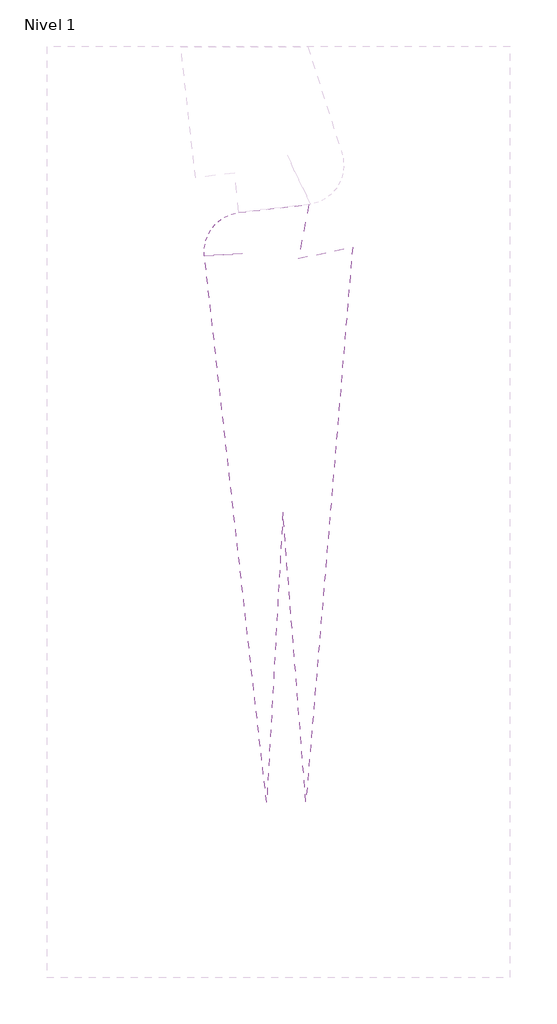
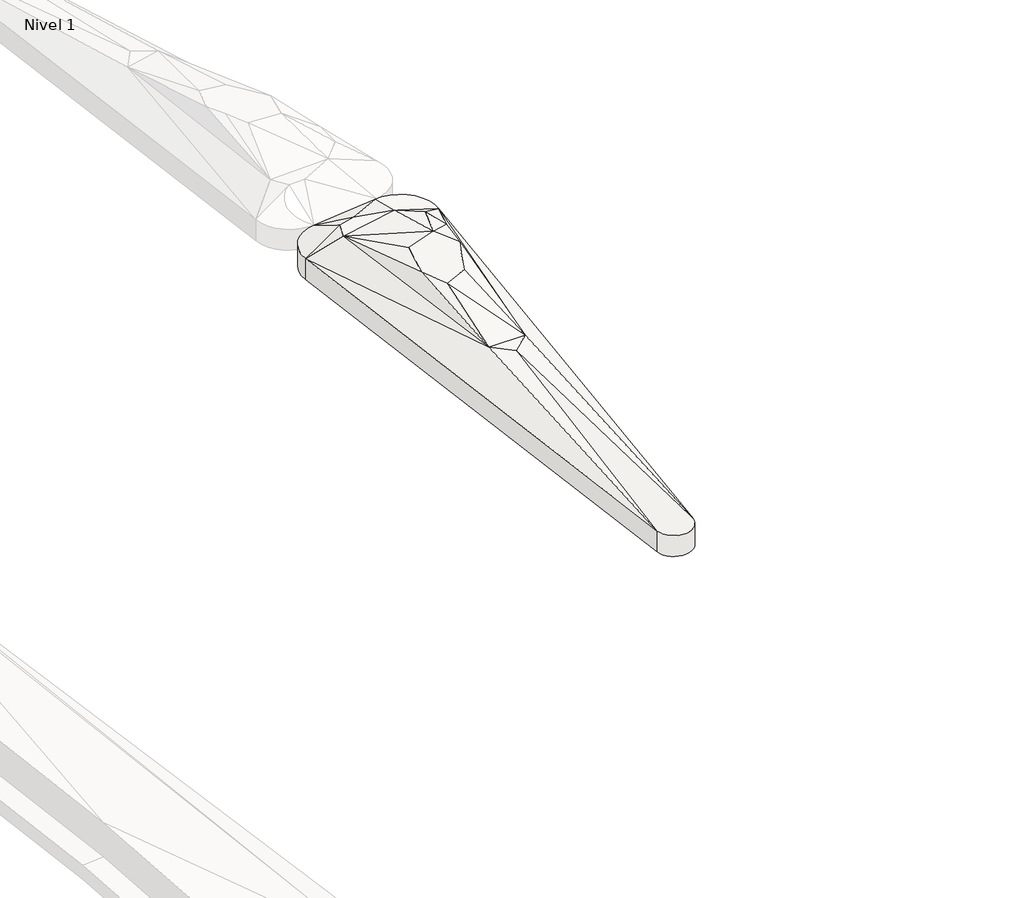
# One storey, part 13 of 45: 1 slab.
"""IFC4 building model written with IfcOpenShell, lengths in millimetres."""

from ifc_helpers import new_model, si_unit, frame, origin, place, context, project, spatial, circle_curve, element, save
from ifc_brep_helpers import plane_surface, cylinder_surface, spline_surface, advanced_brep

model = new_model("IFC4")

# Units and contexts
model_context = context("Model", 3, world=origin())
ifc_project = project(units=[si_unit("LENGTHUNIT", "METRE", prefix="MILLI")], contexts=[model_context])

# Site, building, storey
site = spatial("IfcSite", under=ifc_project)
building = spatial("IfcBuilding", under=site)
storey = spatial("IfcBuildingStorey", under=building, Name="Nivel 1", Elevation=0.0)

# Slab
placement = place(None, origin())
element("IfcSlab", 1, ObjectType="Lippia", at=placement, inside=storey, context=model_context, shape_type="AdvancedBrep", body=[
    advanced_brep(
    [(-294648.0976015, -188719.0515162, 4450.0), (-294648.0976015, -188719.0515162, 4750.0), (-293760.4987211, -188617.9740677, 4750.0), (-293760.4987211, -188617.9740677, 4450.0), (-293205.826344, -189158.326459, 4750.0), (-293205.826344, -189158.326459, 4450.0), (-293798.4692068, -196195.187078, 4750.0), (-293798.4692068, -196195.187078, 4450.0), (-294296.1264659, -196201.2323873, 4450.0), (-294296.1264659, -196201.2323873, 4750.0), (-295085.3083572, -189270.1599316, 4750.0), (-295085.3083572, -189270.1599316, 4450.0), (-293892.1946553, -189301.5059719, 5050.0), (-294379.3508531, -189186.3720456, 5050.0), (-293892.1946553, -189301.5059719, 4750.0), (-294379.3508531, -189186.3720456, 4750.0), (-293936.6609808, -191023.1981282, 5250.0), (-293815.3539824, -190760.0741234, 5250.0), (-293694.046984, -190496.9501187, 5250.0), (-293851.3767113, -190152.1982755, 5250.0), (-294274.7645516, -190302.4276638, 5250.0), (-294341.479566, -190583.4458408, 5250.0), (-294396.5779658, -190815.5323064, 5250.0), (-294244.2769112, -191157.2652186, 5250.0), (-293936.6609808, -191023.1981282, 4950.0), (-294244.2769112, -191157.2652186, 4950.0), (-294396.5779658, -190815.5323064, 4950.0), (-294341.479566, -190583.4458408, 4950.0), (-294274.7645516, -190302.4276638, 4950.0), (-293851.3767113, -190152.1982755, 4950.0), (-293694.046984, -190496.9501187, 4950.0), (-293815.3539824, -190760.0741234, 4950.0), (-294684.8381024, -189461.2542994, 5050.0), (-294604.0632734, -189243.8314745, 5050.0), (-294684.8381024, -189461.2542994, 4750.0), (-294604.0632734, -189243.8314745, 4750.0), (-293591.1435532, -189505.1379682, 5050.0), (-293591.1435532, -189505.1379682, 4750.0), (-293507.5271737, -189858.8413143, 5050.0), (-293840.907107, -192306.6585026, 5050.0), (-293840.907107, -192306.6585026, 4750.0), (-293507.5271737, -189858.8413143, 4750.0), (-294336.7690297, -192303.2910385, 5050.0), (-294336.7690297, -192303.2910385, 4750.0), (-294090.3074141, -192522.9150724, 5050.0), (-294090.3074141, -192522.9150724, 4750.0)],
    [
        (0, 1),
        (1, 2),
        (2, 3),
        (3, 0),
        (2, 4, circle_curve(frame((-293703.9252738, -189114.7666684, 4750.0), z_axis=(0.0, 0.0, -1.0), x_axis=(0.9796556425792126, 0.20068587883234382, 0.0)), 499.9999992)),
        (4, 5),
        (5, 3, circle_curve(frame((-293703.9252738, -189114.7666684, 4450.0), z_axis=(0.0, 0.0, 1.0), x_axis=(0.9796556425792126, 0.20068587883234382, 0.0)), 499.9999992)),
        (4, 6),
        (6, 7),
        (7, 5),
        (8, 9),
        (9, 10),
        (10, 11),
        (11, 8),
        (10, 1, circle_curve(frame((-294588.3090091, -189215.4639701, 4750.0), z_axis=(0.0, 0.0, -1.0), x_axis=(0.9796556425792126, 0.20068587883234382, 0.0)), 500.0000001)),
        (0, 11, circle_curve(frame((-294588.3090091, -189215.4639701, 4450.0), z_axis=(0.0, 0.0, 1.0), x_axis=(0.9796556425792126, 0.20068587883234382, 0.0)), 500.0000001)),
        (2, 12),
        (12, 4),
        (1, 13),
        (13, 2),
        (5, 14),
        (14, 3),
        (3, 15),
        (15, 0),
        (16, 17),
        (17, 18),
        (18, 19),
        (19, 20),
        (20, 21),
        (21, 22),
        (22, 23),
        (23, 16),
        (24, 25),
        (25, 26),
        (26, 27),
        (27, 28),
        (28, 29),
        (29, 30),
        (30, 31),
        (31, 24),
        (20, 32),
        (32, 22),
        (10, 32),
        (32, 33),
        (33, 10),
        (19, 32),
        (26, 34),
        (34, 28),
        (11, 35),
        (35, 34),
        (34, 11),
        (34, 29),
        (32, 12),
        (12, 13),
        (13, 33),
        (19, 12),
        (12, 36),
        (36, 4),
        (35, 15),
        (15, 14),
        (14, 34),
        (14, 29),
        (5, 37),
        (37, 14),
        (4, 38),
        (38, 39),
        (39, 4),
        (19, 38),
        (38, 36),
        (36, 19),
        (5, 40),
        (40, 41),
        (41, 5),
        (29, 37),
        (37, 41),
        (41, 29),
        (22, 42),
        (42, 23),
        (23, 39),
        (39, 16),
        (39, 18),
        (25, 43),
        (43, 26),
        (24, 40),
        (40, 25),
        (30, 40),
        (42, 39),
        (40, 43),
        (1, 33),
        (35, 0),
        (10, 42),
        (42, 32),
        (42, 44),
        (44, 39),
        (18, 38),
        (34, 43),
        (43, 11),
        (40, 45),
        (45, 43),
        (41, 30),
        (6, 9, circle_curve(frame((-294047.5916062, -196174.206044, 4750.0), z_axis=(0.0, 0.0, -1.0), x_axis=(0.9796556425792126, 0.20068587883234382, 0.0)), 249.9999994)),
        (8, 7, circle_curve(frame((-294047.5916062, -196174.206044, 4450.0), z_axis=(0.0, 0.0, 1.0), x_axis=(0.9796556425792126, 0.20068587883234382, 0.0)), 249.9999994)),
        (9, 42),
        (9, 44),
        (6, 44),
        (6, 39),
        (43, 8),
        (45, 8),
        (45, 7),
        (40, 7),
    ],
    [
        plane_surface(frame((-294648.0976015, -188719.0515162, 4450.0), z_axis=(-0.11314611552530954, 0.9935783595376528, 0.0), x_axis=(0.0, 0.0, 1.0))),
        cylinder_surface(frame((-293703.9252738, -189114.7666684, 4750.0), z_axis=(0.0, 0.0, -1.0), x_axis=(0.9796556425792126, 0.20068587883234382, 0.0)), 499.9999992),
        plane_surface(frame((-293205.826344, -189158.326459, 4450.0), z_axis=(0.996472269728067, -0.0839226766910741, 0.0), x_axis=(0.0, 0.0, 1.0))),
        plane_surface(frame((-294296.1264659, -196201.2323873, 4450.0), z_axis=(-0.9935801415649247, -0.11313046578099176, 0.0), x_axis=(0.0, 0.0, 1.0))),
        cylinder_surface(frame((-294588.3090091, -189215.4639701, 4750.0), z_axis=(0.0, 0.0, -1.0), x_axis=(0.9796556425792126, 0.20068587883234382, 0.0)), 500.0000001),
        spline_surface(2, 1, [[(-293205.826344, -189158.326459, 4750.0), (-293892.1946553, -189301.5059719, 5050.0)], [(-293185.1671726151, -188922.0922848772, 4750.0), (-293892.1946553, -189301.5059719, 5050.0)], [(-293355.02625374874, -188756.6193899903, 4750.0), (-293892.1946553, -189301.5059719, 5050.0)], [(-293524.8853348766, -188591.14649510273, 4750.0), (-293892.1946553, -189301.5059719, 5050.0)], [(-293760.4983314, -188617.9774894, 4750.0), (-293892.1946553, -189301.5059719, 5050.0)]], [3, 2, 3], [2, 2], [0.0, 1.0, 2.0], [0.0, 1.0], weights=[[1.0, 1.0], [0.9035324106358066, 0.9035324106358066], [1.0, 1.0], [0.9035324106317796, 0.9035324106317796], [1.0, 1.0]]),
        plane_surface(frame((-294262.6490586, -188841.1325432, 4850.0), z_axis=(-0.05866746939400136, 0.5151809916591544, 0.8550711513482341), x_axis=(-0.9935783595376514, -0.11314611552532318, 0.0))),
        spline_surface(1, 2, [[(-293205.826344, -189158.326459, 4450.0), (-293185.1671726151, -188922.0922848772, 4450.0), (-293355.02625374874, -188756.6193899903, 4450.0), (-293524.8853348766, -188591.14649510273, 4450.0), (-293760.4983314, -188617.9774894, 4450.0)], [(-293892.1946553, -189301.5059719, 4750.0), (-293892.1946553, -189301.5059719, 4750.0), (-293892.1946553, -189301.5059719, 4750.0), (-293892.1946553, -189301.5059719, 4750.0), (-293892.1946553, -189301.5059719, 4750.0)]], [2, 2], [3, 2, 3], [0.0, 1.0], [0.0, 1.0, 2.0], weights=[[1.0, 0.9035324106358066, 1.0, 0.9035324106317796, 1.0], [1.0, 0.9035324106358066, 1.0, 0.9035324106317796, 1.0]]),
        plane_surface(frame((-294262.6490586, -188841.1325432, 4550.0), z_axis=(0.05866746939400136, -0.5151809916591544, -0.8550711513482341), x_axis=(-0.9935783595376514, -0.11314611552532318, 0.0))),
        plane_surface(frame((-294066.2840175, -190657.9286185, 5250.0), z_axis=(0.0, 0.0, 1.0), x_axis=(0.41867445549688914, 0.9081363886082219, 0.0))),
        plane_surface(frame((-294066.2840175, -190657.9286185, 4950.0), z_axis=(0.0, 0.0, -1.0), x_axis=(0.41867445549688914, 0.9081363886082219, 0.0))),
        plane_surface(frame((-294452.0602066, -190193.0714232, 5183.3333333), z_axis=(-0.31080628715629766, 0.0737868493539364, 0.9476048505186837), x_axis=(0.23098458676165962, 0.9729574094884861, 0.0))),
        plane_surface(frame((-294791.4032443, -189325.0819018, 4950.0), z_axis=(-0.526477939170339, 0.1955920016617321, 0.8273842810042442), x_axis=(0.7476699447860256, -0.35676935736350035, 0.5600939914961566))),
        plane_surface(frame((-294270.3264551, -189971.9600796, 5183.3333333), z_axis=(-0.07031548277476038, 0.19816841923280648, 0.9776425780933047), x_axis=(-0.7570475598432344, 0.6275964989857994, -0.18166349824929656))),
        plane_surface(frame((-294452.0602066, -190193.0714232, 4883.3333333), z_axis=(0.31080628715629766, -0.0737868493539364, -0.9476048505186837), x_axis=(0.23098458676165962, 0.9729574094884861, 0.0))),
        plane_surface(frame((-294791.4032443, -189325.0819018, 4650.0), z_axis=(0.526477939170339, -0.1955920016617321, -0.8273842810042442), x_axis=(0.7476699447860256, -0.35676935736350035, 0.5600939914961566))),
        plane_surface(frame((-294270.3264551, -189971.9600796, 4883.3333333), z_axis=(0.07031548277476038, -0.19816841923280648, -0.9776425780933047), x_axis=(-0.7570475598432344, 0.6275964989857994, -0.18166349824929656))),
        plane_surface(frame((-294390.111721, -189298.2409479, 5050.0), z_axis=(0.0, 0.0, 1.0000000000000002), x_axis=(0.9802895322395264, 0.19756627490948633, 0.0))),
        plane_surface(frame((-294142.8031563, -189638.3195156, 5116.6666667), z_axis=(-0.0456580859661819, 0.22654749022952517, 0.97292937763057), x_axis=(-0.0466576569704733, 0.9723985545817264, -0.2286134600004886))),
        plane_surface(frame((-293563.0548508, -189321.6567997, 4950.0), z_axis=(0.2869271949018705, 0.42419536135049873, 0.8589127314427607), x_axis=(-0.9000037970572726, -0.1877448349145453, 0.39337646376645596))),
        plane_surface(frame((-294010.6814098, -189035.2840284, 4950.0), z_axis=(0.09109731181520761, 0.3854521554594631, 0.9182199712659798), x_axis=(-0.6936103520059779, -0.6370612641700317, 0.3362404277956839))),
        plane_surface(frame((-294390.111721, -189298.2409479, 4750.0), z_axis=(0.0, 0.0, -1.0000000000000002), x_axis=(0.9802895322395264, 0.19756627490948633, 0.0))),
        plane_surface(frame((-294142.8031563, -189638.3195156, 4816.6666667), z_axis=(0.0456580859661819, -0.22654749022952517, -0.97292937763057), x_axis=(-0.0466576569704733, 0.9723985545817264, -0.2286134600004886))),
        plane_surface(frame((-293563.0548508, -189321.6567997, 4650.0), z_axis=(-0.2869271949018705, -0.42419536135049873, -0.8589127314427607), x_axis=(-0.9000037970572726, -0.1877448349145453, 0.39337646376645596))),
        plane_surface(frame((-294010.6814098, -189035.2840284, 4650.0), z_axis=(-0.09109731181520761, -0.3854521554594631, -0.9182199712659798), x_axis=(-0.6936103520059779, -0.6370612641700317, 0.3362404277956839))),
        plane_surface(frame((-293518.0868749, -190441.2754253, 4950.0), z_axis=(0.8188449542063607, -0.11152241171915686, 0.5630769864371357), x_axis=(-0.3681073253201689, -0.8547031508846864, 0.3660321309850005))),
        plane_surface(frame((-293650.0158127, -189838.7258527, 5116.6666667), z_axis=(0.4333823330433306, 0.1024526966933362, 0.8953676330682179), x_axis=(0.6956885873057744, 0.5935302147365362, -0.4046470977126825))),
        plane_surface(frame((-293518.0868749, -190441.2754253, 4650.0), z_axis=(-0.8188449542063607, 0.11152241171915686, -0.5630769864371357), x_axis=(-0.3681073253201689, -0.8547031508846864, 0.3660321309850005))),
        plane_surface(frame((-293650.0158127, -189838.7258527, 4816.6666667), z_axis=(-0.4333823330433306, -0.1024526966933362, -0.8953676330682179), x_axis=(0.6956885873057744, 0.5935302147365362, -0.4046470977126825))),
        plane_surface(frame((-294325.8746355, -191425.3628545, 5183.3333333), z_axis=(-0.3116455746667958, -0.1388919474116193, 0.9399925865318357), x_axis=(-0.40707513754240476, 0.913394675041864, 0.0))),
        plane_surface(frame((-294007.2816664, -191495.7072831, 5183.3333333), z_axis=(0.06490187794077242, -0.14891687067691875, 0.9867175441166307), x_axis=(-0.9167198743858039, -0.39953056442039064, 0.0))),
        plane_surface(frame((-293823.8716906, -191275.6022498, 5183.3333333), z_axis=(0.2770555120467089, -0.1277297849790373, 0.9523262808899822), x_axis=(0.07351689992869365, -0.9854016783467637, -0.15355389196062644))),
        plane_surface(frame((-294325.8746355, -191425.3628545, 4883.3333333), z_axis=(0.3116455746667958, 0.1388919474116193, -0.9399925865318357), x_axis=(-0.40707513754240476, 0.913394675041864, 0.0))),
        plane_surface(frame((-294007.2816664, -191495.7072831, 4883.3333333), z_axis=(-0.06490187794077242, 0.14891687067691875, -0.9867175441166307), x_axis=(-0.9167198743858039, -0.39953056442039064, 0.0))),
        plane_surface(frame((-293823.8716906, -191275.6022498, 4883.3333333), z_axis=(-0.2770555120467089, 0.1277297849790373, -0.9523262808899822), x_axis=(0.07351689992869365, -0.9854016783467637, -0.15355389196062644))),
        plane_surface(frame((-294140.651016, -191922.4049199, 5116.6666667), z_axis=(-0.0011668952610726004, -0.1718263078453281, 0.9851265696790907), x_axis=(-0.07925512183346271, -0.9820124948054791, -0.1713770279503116))),
        plane_surface(frame((-294140.651016, -191922.4049199, 4816.6666667), z_axis=(0.0011668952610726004, 0.1718263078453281, -0.9851265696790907), x_axis=(-0.07925512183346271, -0.9820124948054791, -0.1713770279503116))),
        plane_surface(frame((-294543.8372427, -189049.7516788, 4950.0), z_axis=(-0.1239166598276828, 0.48461345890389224, 0.8659067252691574), x_axis=(0.0726543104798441, -0.8658591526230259, 0.4949841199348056))),
        spline_surface(2, 1, [[(-294648.0976015, -188719.0515162, 4750.0), (-294604.0632734, -189243.8314745, 5050.0)], [(-295139.44639153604, -188778.23023407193, 4750.0), (-294604.0632734, -189243.8314745, 5050.0)], [(-295085.3083572, -189270.1599316, 4750.0), (-294604.0632734, -189243.8314745, 5050.0)]], [3, 3], [2, 2], [0.0, 1.0], [0.0, 1.0], weights=[[1.0, 1.0], [0.7107223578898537, 0.7107223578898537], [1.0, 1.0]]),
        plane_surface(frame((-294543.8372427, -189049.7516788, 4650.0), z_axis=(0.1239166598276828, -0.48461345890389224, -0.8659067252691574), x_axis=(0.0726543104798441, -0.8658591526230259, 0.4949841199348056))),
        spline_surface(1, 2, [[(-294648.0976015, -188719.0515162, 4450.0), (-295139.44639153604, -188778.23023407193, 4450.0), (-295085.3083572, -189270.1599316, 4450.0)], [(-294604.0632734, -189243.8314745, 4750.0), (-294604.0632734, -189243.8314745, 4750.0), (-294604.0632734, -189243.8314745, 4750.0)]], [2, 2], [3, 3], [0.0, 1.0], [0.0, 1.0], weights=[[1.0, 0.7107223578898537, 1.0], [1.0, 0.7107223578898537, 1.0]]),
        plane_surface(frame((-293778.2383066, -189652.9474052, 5116.6666667), z_axis=(0.15771239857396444, 0.23316321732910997, 0.9595632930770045), x_axis=(0.3586751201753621, 0.8918326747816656, -0.275656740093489))),
        plane_surface(frame((-293778.2383066, -189652.9474052, 4816.6666667), z_axis=(-0.15771239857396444, -0.23316321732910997, -0.9595632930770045), x_axis=(0.3586751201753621, 0.8918326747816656, -0.275656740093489))),
        plane_surface(frame((-294702.3051631, -190344.9017565, 4950.0), z_axis=(-0.6207985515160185, -0.07603025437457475, 0.7802746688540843), x_axis=(0.23850209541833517, -0.966426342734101, 0.09558699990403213))),
        plane_surface(frame((-294089.3278503, -192377.6215378, 5050.0), z_axis=(0.0, 0.0, 1.0), x_axis=(-0.9999769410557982, 0.0067909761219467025, 0.0))),
        plane_surface(frame((-293684.3169563, -190169.3299028, 5183.3333333), z_axis=(0.3803137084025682, 0.17355861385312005, 0.9084266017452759), x_axis=(0.41516790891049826, -0.9097448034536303, 0.0))),
        plane_surface(frame((-293434.832357, -189507.4352472, 4950.0), z_axis=(0.5358825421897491, 0.12668400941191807, 0.8347341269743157), x_axis=(-0.6433153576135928, -0.5790272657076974, 0.5008720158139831))),
        plane_surface(frame((-294702.3051631, -190344.9017565, 4650.0), z_axis=(0.6207985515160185, 0.07603025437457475, -0.7802746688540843), x_axis=(0.23850209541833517, -0.966426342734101, 0.09558699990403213))),
        plane_surface(frame((-294089.3278503, -192377.6215378, 4750.0), z_axis=(0.0, 0.0, -1.0), x_axis=(-0.9999769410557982, 0.0067909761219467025, 0.0))),
        plane_surface(frame((-293684.3169563, -190169.3299028, 4883.3333333), z_axis=(-0.3803137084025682, -0.17355861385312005, -0.9084266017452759), x_axis=(0.41516790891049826, -0.9097448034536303, 0.0))),
        plane_surface(frame((-293434.832357, -189507.4352472, 4650.0), z_axis=(-0.5358825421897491, -0.12668400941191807, -0.8347341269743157), x_axis=(-0.6433153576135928, -0.5790272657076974, 0.5008720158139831))),
        plane_surface(frame((-294472.728366, -190860.0258814, 5116.6666667), z_axis=(-0.8483294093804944, -0.10389634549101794, 0.5191750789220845), x_axis=(-0.20604928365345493, 0.9680423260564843, -0.1429606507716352))),
        plane_surface(frame((-294472.728366, -190860.0258814, 4816.6666667), z_axis=(0.8483294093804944, 0.10389634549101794, -0.5191750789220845), x_axis=(-0.20604928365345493, 0.9680423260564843, -0.1429606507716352))),
        plane_surface(frame((-293680.8270882, -190887.4833118, 5116.6666667), z_axis=(0.8885409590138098, -0.12101464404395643, 0.4425499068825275), x_axis=(-0.08039906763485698, -0.9907309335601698, -0.1094906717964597))),
        plane_surface(frame((-293680.8270882, -190887.4833118, 4816.6666667), z_axis=(-0.8885409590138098, 0.12101464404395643, -0.4425499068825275), x_axis=(-0.08039906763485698, -0.9907309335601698, -0.1094906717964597))),
        cylinder_surface(frame((-294047.5916062, -196174.206044, 4750.0), z_axis=(0.0, 0.0, -1.0), x_axis=(0.9796556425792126, 0.20068587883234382, 0.0)), 249.9999994),
        plane_surface(frame((-294572.7346176, -192591.5611191, 4850.0), z_axis=(-0.5955816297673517, -0.06781378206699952, 0.8004272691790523), x_axis=(0.11313046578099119, -0.9935801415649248, 0.0))),
        plane_surface(frame((-294241.0676365, -193675.8128327, 4950.0), z_axis=(-0.06885445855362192, -0.07726832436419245, 0.9946299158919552), x_axis=(0.010395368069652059, -0.9969975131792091, -0.07673262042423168))),
        spline_surface(2, 1, [[(-294296.1264659, -196201.2323873, 4750.0), (-294090.3074141, -192522.9150724, 5050.0)], [(-294271.5818085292, -196426.9456074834, 4750.0), (-294090.3074141, -192522.9150724, 5050.0)], [(-294044.5547366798, -196424.18759760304, 4750.0), (-294090.3074141, -192522.9150724, 5050.0)], [(-293817.5276648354, -196421.42958778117, 4750.0), (-294090.3074141, -192522.9150724, 5050.0)], [(-293798.4735394, -196195.1867132, 4750.0), (-294090.3074141, -192522.9150724, 5050.0)]], [3, 2, 3], [2, 2], [0.0, 1.0, 2.0], [0.0, 1.0], weights=[[1.0, 1.0], [0.7402773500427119, 0.7402773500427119], [1.0, 1.0], [0.7402773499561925, 0.7402773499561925], [1.0, 1.0]]),
        plane_surface(frame((-293909.894576, -193674.9202177, 4950.0), z_axis=(0.06593363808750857, -0.07603870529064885, 0.9949225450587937), x_axis=(-0.7555246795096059, -0.6551201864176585, 0.0))),
        plane_surface(frame((-293615.0675526, -192553.3906799, 4850.0), z_axis=(0.62899056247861, -0.05297344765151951, 0.7756060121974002), x_axis=(-0.19687981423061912, -0.976006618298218, 0.09300225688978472))),
        plane_surface(frame((-294572.7346176, -192591.5611191, 4550.0), z_axis=(0.5955816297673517, 0.06781378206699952, -0.8004272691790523), x_axis=(0.11313046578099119, -0.9935801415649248, 0.0))),
        plane_surface(frame((-294241.0676365, -193675.8128327, 4650.0), z_axis=(0.06885445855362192, 0.07726832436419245, -0.9946299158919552), x_axis=(0.010395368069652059, -0.9969975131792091, -0.07673262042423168))),
        spline_surface(1, 2, [[(-294296.1264659, -196201.2323873, 4450.0), (-294271.5818085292, -196426.9456074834, 4450.0), (-294044.5547366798, -196424.18759760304, 4450.0), (-293817.5276648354, -196421.42958778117, 4450.0), (-293798.4735394, -196195.1867132, 4450.0)], [(-294090.3074141, -192522.9150724, 4750.0), (-294090.3074141, -192522.9150724, 4750.0), (-294090.3074141, -192522.9150724, 4750.0), (-294090.3074141, -192522.9150724, 4750.0), (-294090.3074141, -192522.9150724, 4750.0)]], [2, 2], [3, 2, 3], [0.0, 1.0], [0.0, 1.0, 2.0], weights=[[1.0, 0.7402773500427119, 1.0, 0.7402773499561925, 1.0], [1.0, 0.7402773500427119, 1.0, 0.7402773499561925, 1.0]]),
        plane_surface(frame((-293909.894576, -193674.9202177, 4650.0), z_axis=(-0.06593363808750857, 0.07603870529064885, -0.9949225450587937), x_axis=(-0.7555246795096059, -0.6551201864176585, 0.0))),
        plane_surface(frame((-293615.0675526, -192553.3906799, 4550.0), z_axis=(-0.62899056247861, 0.05297344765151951, -0.7756060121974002), x_axis=(-0.19687981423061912, -0.976006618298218, 0.09300225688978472))),
    ],
    [
        (0, [[1, 2, 3, 4]]),
        (1, [[-3, 5, 6, 7]]),
        (2, [[-6, 8, 9, 10]]),
        (3, [[11, 12, 13, 14]]),
        (4, [[-13, 15, -1, 16]]),
        (5, [[-5, 17, 18]]),
        (6, [[-2, 19, 20]]),
        (7, [[21, 22, -7]]),
        (8, [[23, 24, -4]]),
        (9, [[25, 26, 27, 28, 29, 30, 31, 32]]),
        (10, [[33, 34, 35, 36, 37, 38, 39, 40]]),
        (11, [[-29, 41, 42, -30]]),
        (12, [[43, 44, 45]]),
        (13, [[46, -41, -28]]),
        (14, [[-35, 47, 48, -36]]),
        (15, [[49, 50, 51]]),
        (16, [[-37, -48, 52]]),
        (17, [[53, 54, 55, -44]]),
        (18, [[56, -53, -46]]),
        (19, [[-18, 57, 58]]),
        (20, [[-20, -54, -17]]),
        (21, [[-50, 59, 60, 61]]),
        (22, [[-52, -61, 62]]),
        (23, [[63, 64, -21]]),
        (24, [[-22, -60, -23]]),
        (25, [[65, 66, 67]]),
        (26, [[68, 69, 70]]),
        (27, [[71, 72, 73]]),
        (28, [[74, 75, 76]]),
        (29, [[-31, 77, 78]]),
        (30, [[-32, 79, 80]]),
        (31, [[-80, 81, -26, -25]]),
        (32, [[82, 83, -34]]),
        (33, [[84, 85, -33]]),
        (34, [[-40, -39, 86, -84]]),
        (35, [[-78, 87, -79]]),
        (36, [[-85, 88, -82]]),
        (37, [[89, -55, -19]]),
        (38, [[-45, -89, -15]]),
        (39, [[-24, -59, 90]]),
        (40, [[-16, -90, -49]]),
        (41, [[-70, -57, -56]]),
        (42, [[-62, -64, -74]]),
        (43, [[91, 92, -43]]),
        (44, [[-87, 93, 94]]),
        (45, [[-27, 95, -68]]),
        (46, [[-58, -69, -65]]),
        (47, [[-51, 96, 97]]),
        (48, [[98, 99, -88]]),
        (49, [[-76, 100, -38]]),
        (50, [[-73, -75, -63]]),
        (51, [[-42, -92, -77]]),
        (52, [[-83, -96, -47]]),
        (53, [[-81, -66, -95]]),
        (54, [[-100, -72, -86]]),
        (55, [[-9, 101, -11, 102]]),
        (56, [[-12, 103, -91]]),
        (57, [[-103, 104, -93]]),
        (58, [[-104, -101, 105]]),
        (59, [[-94, -105, 106]]),
        (60, [[-67, -106, -8]]),
        (61, [[-97, 107, -14]]),
        (62, [[-99, 108, -107]]),
        (63, [[109, -102, -108]]),
        (64, [[110, -109, -98]]),
        (65, [[-10, -110, -71]]),
    ],
),
])

save(model, "model.ifc")
